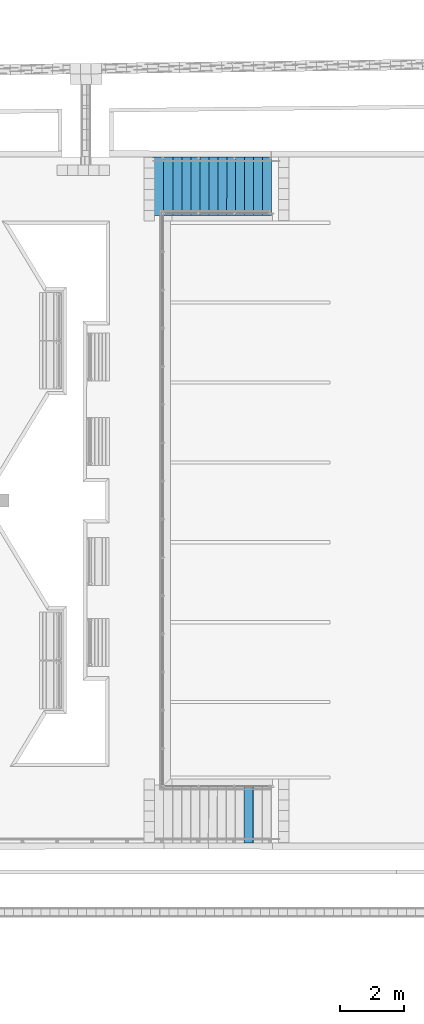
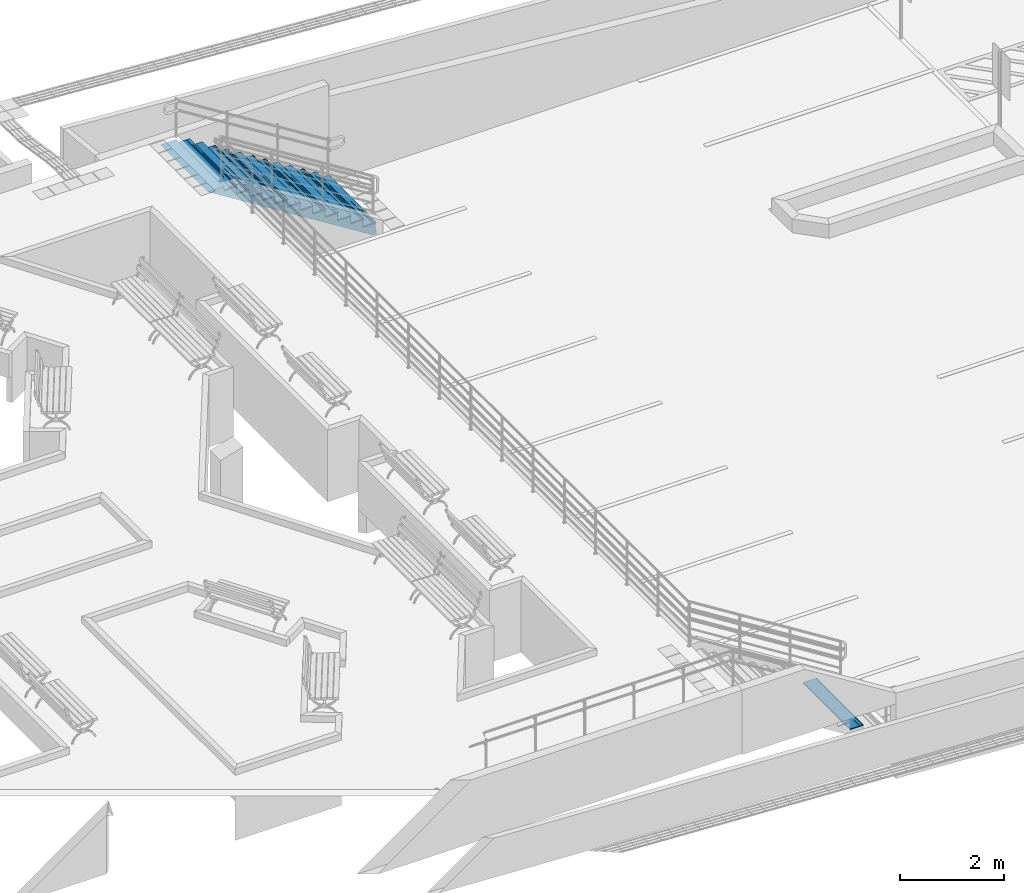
# One storey, part 25 of 237: 14 members, 2 elements without a shape of their own.
"""IFC2X3 building model written with IfcOpenShell, lengths in millimetres."""

from ifc_helpers import new_model, entity, si_unit, converted_unit, derived_unit, money_unit, direction, frame, origin_with_axes, place, context, subcontext, project, spatial, faceted_brep, material, type_object, element, aggregate, save


model = new_model("IFC2X3")

# Units and contexts
model_context = context("Model", 3, precision=0.01, world=origin_with_axes(), true_north=direction((0.0, 1.0)))
body_context = subcontext(model_context, "Body", "Model", "MODEL_VIEW")
ifc_project = project(units=[si_unit("LENGTHUNIT", "METRE", prefix="MILLI"), si_unit("AREAUNIT", "SQUARE_METRE"), si_unit("VOLUMEUNIT", "CUBIC_METRE"), converted_unit("PLANEANGLEUNIT", "DEGREE", entity("IfcPlaneAngleMeasure", 0.0174532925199), si_unit("PLANEANGLEUNIT", "RADIAN"), dimensions=[0, 0, 0, 0, 0, 0, 0]), money_unit("USD"), converted_unit("TIMEUNIT", "Year", entity("IfcTimeMeasure", 31556926.0), si_unit("TIMEUNIT", "SECOND"), dimensions=[0, 0, 1, 0, 0, 0, 0]), si_unit("MASSUNIT", "GRAM", prefix="KILO"), si_unit("THERMODYNAMICTEMPERATUREUNIT", "DEGREE_CELSIUS"), si_unit("LUMINOUSINTENSITYUNIT", "LUMEN"), si_unit("ENERGYUNIT", "JOULE", prefix="MEGA"), derived_unit("THERMALCONDUCTANCEUNIT", [(si_unit("POWERUNIT", "WATT"), 1), (si_unit("LENGTHUNIT", "METRE"), -1), (si_unit("THERMODYNAMICTEMPERATUREUNIT", "KELVIN"), -1)]), derived_unit("SPECIFICHEATCAPACITYUNIT", [(si_unit("ENERGYUNIT", "JOULE"), 1), (si_unit("MASSUNIT", "GRAM", prefix="KILO"), -1), (si_unit("THERMODYNAMICTEMPERATUREUNIT", "KELVIN"), -1)]), derived_unit("MASSDENSITYUNIT", [(si_unit("MASSUNIT", "GRAM", prefix="KILO"), 1), (si_unit("VOLUMEUNIT", "CUBIC_METRE"), -1)])], contexts=[model_context])

# Site, building, storey
site_placement = place(None, origin_with_axes())
site = spatial("IfcSite", under=ifc_project, at=site_placement, Name="Local", CompositionType="ELEMENT")
building_placement = place(site_placement, origin_with_axes())
building = spatial("IfcBuilding", under=site, at=building_placement, Name="Construção", CompositionType="ELEMENT")
storey_placement = place(building_placement, origin_with_axes())
storey = spatial("IfcBuildingStorey", under=building, at=storey_placement, Name="Pavimento Térreo", CompositionType="ELEMENT", Elevation=0.0)

# Stair, members
stair_1_placement = place(storey_placement, frame((103626.410197, 34446.6872117, -7274.60754302), z_axis=(0.0, 0.0, 1.0), x_axis=(1.0, 0.0, 0.0)))
stair_1 = element("IfcStair", 1, at=stair_1_placement, inside=storey, Name="Escada - 012", ShapeType="NOTDEFINED")
ifc_material_1 = material(Name="Concreto - Estrutural")
member_type = type_object("IfcMemberType", Name="IfcMember", PredefinedType="NOTDEFINED")
member_1_placement = place(stair_1_placement, origin_with_axes())
member_1 = element("IfcMember", 2, at=member_1_placement, type_object=member_type, material=ifc_material_1, Name="Lance - 014", context=body_context, shape_type="Brep", body=[
    faceted_brep([(-3267.74400748, -1813.32779161, 1893.76017655), (-3266.66339662, 6.67188759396, 1893.76017655), (-3173.33142686, 6.61647245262, 1835.29885576), (-3174.41203772, -1813.38320675, 1835.29885576), (-3359.99536638, 6.72730273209, 1952.22154099), (-3361.07597724, -1813.27237363, 1952.22154099), (-3724.71697623, -1813.05646716, 2180.0), (-3723.63636538, 6.94321178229, 2180.0), (-3359.99536638, 6.72730272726, 2079.61538462), (-3094.99945446, 6.56996343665, 2079.61538462), (-3094.99945446, 6.56996343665, 1904.23076923), (-2814.99950381, 6.40371561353, 1904.23076923), (-2814.99950381, 6.40371561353, 1728.84615385), (-2534.99955317, 6.23746758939, 1728.84615385), (-2534.99955317, 6.23746758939, 1553.46153846), (-2254.99960252, 6.07121956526, 1553.46153846), (-2254.99960252, 6.07121956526, 1378.07692308), (-1974.99965188, 5.90497154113, 1378.07692308), (-1974.99965188, 5.90497154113, 1202.69230769), (-1694.99970123, 5.73872482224, 1202.69230769), (-1694.99970123, 5.73872482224, 1027.30769231), (-1414.99975058, 5.57247679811, 1027.30769231), (-1414.99975058, 5.57247679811, 851.923076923), (-1134.99979994, 5.40622877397, 851.923076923), (-1134.99979994, 5.40622877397, 676.538461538), (-854.999849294, 5.23998074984, 676.538461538), (-854.999849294, 5.23998074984, 501.153846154), (-574.999898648, 5.07373272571, 501.153846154), (-574.999898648, 5.07373272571, 325.769230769), (-294.999948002, 4.90748470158, 325.769230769), (-294.999948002, 4.90748470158, 150.384615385), (-14.9999973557, 4.74123798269, 150.384615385), (-14.9999973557, 4.74123798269, -25.0), (0.0, 4.73233124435, -25.0), (0.0, 4.73233124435, -100.0), (-83.6453143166, 4.7819950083, -100.0), (-93.3333168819, 4.78774718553, -93.9316896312), (-186.666633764, 4.84316312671, -35.4701511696), (-279.999950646, 4.89857906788, 22.9913872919), (-373.333267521, 4.95400690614, 81.4529257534), (-466.666584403, 5.00942284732, 139.914464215), (-559.999901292, 5.06482689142, 198.376002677), (-653.333218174, 5.1202428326, 256.837541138), (-746.666535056, 5.17565877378, 315.2990796), (-839.999851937, 5.23107471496, 373.760618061), (-933.333168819, 5.28649065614, 432.222156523), (-1026.6664857, 5.34190659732, 490.683694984), (-1119.99980258, 5.39732253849, 549.145233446), (-1213.33311947, 5.45273847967, 607.606771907), (-1306.66643635, 5.50815442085, 666.068310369), (-1399.99975323, 5.56357036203, 724.52984883), (-1493.33307011, 5.61898831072, 782.991387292), (-1586.66638699, 5.6744042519, 841.452925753), (-1679.99970387, 5.72982019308, 899.914464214), (-1773.33302075, 5.7852400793, 958.376002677), (-1866.66633764, 5.84065602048, 1016.83754114), (-1959.99965452, 5.89607196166, 1075.29907962), (-2053.3329714, 5.95149184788, 1133.76061812), (-2146.66628828, 6.00690778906, 1192.22215661), (-2239.99960517, 6.06231383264, 1250.68369506), (-2333.33292205, 6.11772977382, 1309.14523278), (-2426.66623893, 6.173145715, 1367.60676952), (-2519.99955581, 6.22856165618, 1426.06830223), (-2613.33287269, 6.28397759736, 1484.52982371), (-2706.66618958, 6.33939353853, 1542.99134113), (-2799.99950646, 6.39480947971, 1601.45285066), (-2893.33282334, 6.45022542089, 1659.91442394), (-2986.66614022, 6.50564136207, 1718.37598555), (-3079.9994571, 6.56105730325, 1776.83761949), (-3374.99536374, 6.73620886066, 2180.0), (-3374.99536374, 6.73620886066, 2079.61538462), (-3081.08006796, -1813.43862189, 1776.83761949), (-2987.74675108, -1813.49403784, 1718.37598555), (-2894.41343419, -1813.54945378, 1659.91442394), (-2801.08011731, -1813.60486972, 1601.45285066), (-2707.74680043, -1813.66028566, 1542.99134113), (-2614.41348355, -1813.7157016, 1484.52982371), (-2521.08016667, -1813.77111754, 1426.06830223), (-2427.74684978, -1813.82653348, 1367.60676952), (-2334.4135329, -1813.88194942, 1309.14523278), (-2241.08021602, -1813.93736537, 1250.68369506), (-2147.74689914, -1813.99278131, 1192.22215661), (-2054.41358226, -1814.04819725, 1133.76061812), (-1961.08026537, -1814.10361319, 1075.29907962), (-1867.74694849, -1814.15902913, 1016.83754114), (-1774.41363161, -1814.21444507, 958.376002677), (-1681.08031473, -1814.26986101, 899.914464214), (-1587.74699785, -1814.32527695, 841.452925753), (-1494.41368096, -1814.38069289, 782.991387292), (-1401.08036408, -1814.43610884, 724.52984883), (-1307.7470472, -1814.49152478, 666.068310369), (-1214.41373032, -1814.54694072, 607.606771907), (-1121.08041344, -1814.60235666, 549.145233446), (-1027.74709655, -1814.6577726, 490.683694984), (-934.413779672, -1814.71318854, 432.222156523), (-841.08046279, -1814.76860448, 373.760618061), (-747.747145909, -1814.82402042, 315.2990796), (-654.413829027, -1814.87943637, 256.837541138), (-561.080512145, -1814.93485231, 198.376002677), (-467.747195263, -1814.99026825, 139.914464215), (-374.413878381, -1815.04568419, 81.4529257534), (-281.080561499, -1815.10110013, 22.9913872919), (-187.747244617, -1815.15651607, -35.4701511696), (-94.4139277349, -1815.21193201, -93.9316896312), (-84.7259251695, -1815.21768419, -100.0), (-1.08061085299, -1815.26734795, -100.0), (-1.08061085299, -1815.26734795, -25.0), (-16.0806082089, -1815.25844158, -25.0), (-16.0806082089, -1815.25844158, 150.384615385), (-296.080558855, -1815.09219376, 150.384615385), (-296.080558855, -1815.09219376, 325.769230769), (-576.080509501, -1814.92594593, 325.769230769), (-576.080509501, -1814.92594593, 501.153846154), (-856.080460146, -1814.75969811, 501.153846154), (-856.080460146, -1814.75969811, 676.538461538), (-1136.08041079, -1814.59345029, 676.538461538), (-1136.08041079, -1814.59345029, 851.923076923), (-1416.08036144, -1814.42720246, 851.923076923), (-1416.08036144, -1814.42720246, 1027.30769231), (-1696.08031208, -1814.26095464, 1027.30769231), (-1696.08031208, -1814.26095464, 1202.69230769), (-1976.08026273, -1814.09470682, 1202.69230769), (-1976.08026273, -1814.09470682, 1378.07692308), (-2256.08021338, -1813.92845899, 1378.07692308), (-2256.08021338, -1813.92845899, 1553.46153846), (-2536.08016402, -1813.76221117, 1553.46153846), (-2536.08016402, -1813.76221117, 1728.84615385), (-2816.08011467, -1813.59596334, 1728.84615385), (-2816.08011467, -1813.59596334, 1904.23076923), (-3096.08006531, -1813.42971576, 1904.23076923), (-3096.08006531, -1813.42971576, 2079.61538462), (-3361.07597724, -1813.27237647, 2079.61538462), (-3376.07597459, -1813.26347034, 2079.61538462), (-3376.07597459, -1813.26347034, 2180.0)], [[[0, 1, 2, 3]], [[4, 1, 0, 5, 6, 7]], [[8, 9, 10, 11, 12, 13, 14, 15, 16, 17, 18, 19, 20, 21, 22, 23, 24, 25, 26, 27, 28, 29, 30, 31, 32, 33, 34, 35, 36, 37, 38, 39, 40, 41, 42, 43, 44, 45, 46, 47, 48, 49, 50, 51, 52, 53, 54, 55, 56, 57, 58, 59, 60, 61, 62, 63, 64, 65, 66, 67, 68, 2, 1, 4, 7, 69, 70]], [[3, 2, 68, 71]], [[5, 0, 3, 71, 72, 73, 74, 75, 76, 77, 78, 79, 80, 81, 82, 83, 84, 85, 86, 87, 88, 89, 90, 91, 92, 93, 94, 95, 96, 97, 98, 99, 100, 101, 102, 103, 104, 105, 106, 107, 108, 109, 110, 111, 112, 113, 114, 115, 116, 117, 118, 119, 120, 121, 122, 123, 124, 125, 126, 127, 128, 129, 130, 131, 132, 133, 6]], [[6, 133, 69, 7]], [[131, 130, 9, 8, 70, 132]], [[130, 129, 10, 9]], [[129, 128, 11, 10]], [[128, 127, 12, 11]], [[127, 126, 13, 12]], [[126, 125, 14, 13]], [[125, 124, 15, 14]], [[124, 123, 16, 15]], [[123, 122, 17, 16]], [[122, 121, 18, 17]], [[121, 120, 19, 18]], [[120, 119, 20, 19]], [[119, 118, 21, 20]], [[118, 117, 22, 21]], [[117, 116, 23, 22]], [[116, 115, 24, 23]], [[115, 114, 25, 24]], [[114, 113, 26, 25]], [[113, 112, 27, 26]], [[112, 111, 28, 27]], [[111, 110, 29, 28]], [[110, 109, 30, 29]], [[109, 108, 31, 30]], [[108, 107, 32, 31]], [[32, 107, 106, 33]], [[105, 34, 33, 106]], [[35, 34, 105, 104]], [[35, 104, 103, 36]], [[102, 37, 36, 103]], [[101, 38, 37, 102]], [[100, 39, 38, 101]], [[99, 40, 39, 100]], [[98, 41, 40, 99]], [[97, 42, 41, 98]], [[96, 43, 42, 97]], [[95, 44, 43, 96]], [[94, 45, 44, 95]], [[93, 46, 45, 94]], [[92, 47, 46, 93]], [[91, 48, 47, 92]], [[90, 49, 48, 91]], [[89, 50, 49, 90]], [[88, 51, 50, 89]], [[87, 52, 51, 88]], [[86, 53, 52, 87]], [[85, 54, 53, 86]], [[84, 55, 54, 85]], [[83, 56, 55, 84]], [[82, 57, 56, 83]], [[81, 58, 57, 82]], [[80, 59, 58, 81]], [[79, 60, 59, 80]], [[78, 61, 60, 79]], [[77, 62, 61, 78]], [[76, 63, 62, 77]], [[75, 64, 63, 76]], [[74, 65, 64, 75]], [[73, 66, 65, 74]], [[72, 67, 66, 73]], [[71, 68, 67, 72]], [[132, 70, 69, 133]]]),
])
ifc_material_2 = material(Name="Concreto Armado - Pré-fabricado")
member_2_placement = place(stair_1_placement, frame((-0.540305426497, -905.267508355, 175.384615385), z_axis=(0.0, 0.0, 1.0), x_axis=(0.000593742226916, 0.999999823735, 0.0)))
member_2 = element("IfcMember", 3, at=member_2_placement, type_object=member_type, material=ifc_material_2, Name="Piso Esc. - 102", context=body_context, shape_type="Brep", body=[
    faceted_brep([(-910.0, 95.0, 0.0), (910.0, 95.0, 0.0), (910.0, 294.999986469, 0.0), (-910.0, 295.000000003, 0.0), (910.0, 95.0, -5.0), (-910.0, 95.0, -5.0), (910.0, 80.0, -5.0), (910.0, 80.0, 0.0), (910.0, 62.5, 0.0), (910.0, 62.5, -5.0), (910.0, 47.5, -5.0), (910.0, 47.5, 0.0), (910.0, 30.0, 0.0), (910.0, 30.0, -5.0), (910.0, 15.0, -5.0), (910.0, 15.0, 0.0), (910.0, 0.0, 0.0), (910.0, 0.0, -25.0), (910.0, 294.999986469, -25.0), (-910.0, 295.000000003, -25.0), (-910.0, 0.0, -25.0), (-910.0, 0.0, 0.0), (-910.0, 15.0, 0.0), (-910.0, 15.0, -5.0), (-910.0, 30.0, -5.0), (-910.0, 30.0, 0.0), (-910.0, 47.5, 0.0), (-910.0, 47.5, -5.0), (-910.0, 62.5, -5.0), (-910.0, 62.5, 0.0), (-910.0, 80.0, 0.0), (-910.0, 80.0, -5.0)], [[[0, 1, 2, 3]], [[4, 1, 0, 5]], [[6, 7, 8, 9, 10, 11, 12, 13, 14, 15, 16, 17, 18, 2, 1, 4]], [[2, 18, 19, 3]], [[5, 0, 3, 19, 20, 21, 22, 23, 24, 25, 26, 27, 28, 29, 30, 31]], [[6, 4, 5, 31]], [[30, 7, 6, 31]], [[7, 30, 29, 8]], [[8, 29, 28, 9]], [[9, 28, 27, 10]], [[11, 10, 27, 26]], [[26, 25, 12, 11]], [[25, 24, 13, 12]], [[24, 23, 14, 13]], [[14, 23, 22, 15]], [[21, 16, 15, 22]], [[21, 20, 17, 16]], [[17, 20, 19, 18]]]),
])
member_3_placement = place(stair_1_placement, frame((-280.540256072, -905.101260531, 350.769230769), z_axis=(0.0, 0.0, 1.0), x_axis=(0.000593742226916, 0.999999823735, 0.0)))
member_3 = element("IfcMember", 4, at=member_3_placement, type_object=member_type, material=ifc_material_2, Name="Piso Esc. - 103", context=body_context, shape_type="Brep", body=[
    faceted_brep([(-910.0, 95.0, 0.0), (910.0, 95.0, 0.0), (910.0, 294.999986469, 0.0), (-910.0, 295.000000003, 0.0), (910.0, 95.0, -5.0), (-910.0, 95.0, -5.0), (910.0, 80.0, -5.0), (910.0, 80.0, 0.0), (910.0, 62.5, 0.0), (910.0, 62.5, -5.0), (910.0, 47.5, -5.0), (910.0, 47.5, 0.0), (910.0, 30.0, 0.0), (910.0, 30.0, -5.0), (910.0, 15.0, -5.0), (910.0, 15.0, 0.0), (910.0, 0.0, 0.0), (910.0, 0.0, -25.0), (910.0, 294.999986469, -25.0), (-910.0, 295.000000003, -25.0), (-910.0, 0.0, -25.0), (-910.0, 0.0, 0.0), (-910.0, 15.0, 0.0), (-910.0, 15.0, -5.0), (-910.0, 30.0, -5.0), (-910.0, 30.0, 0.0), (-910.0, 47.5, 0.0), (-910.0, 47.5, -5.0), (-910.0, 62.5, -5.0), (-910.0, 62.5, 0.0), (-910.0, 80.0, 0.0), (-910.0, 80.0, -5.0)], [[[0, 1, 2, 3]], [[4, 1, 0, 5]], [[6, 7, 8, 9, 10, 11, 12, 13, 14, 15, 16, 17, 18, 2, 1, 4]], [[2, 18, 19, 3]], [[5, 0, 3, 19, 20, 21, 22, 23, 24, 25, 26, 27, 28, 29, 30, 31]], [[6, 4, 5, 31]], [[30, 7, 6, 31]], [[7, 30, 29, 8]], [[8, 29, 28, 9]], [[9, 28, 27, 10]], [[11, 10, 27, 26]], [[26, 25, 12, 11]], [[25, 24, 13, 12]], [[24, 23, 14, 13]], [[14, 23, 22, 15]], [[21, 16, 15, 22]], [[21, 20, 17, 16]], [[17, 20, 19, 18]]]),
])
member_4_placement = place(stair_1_placement, frame((-560.540206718, -904.935012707, 526.153846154), z_axis=(0.0, 0.0, 1.0), x_axis=(0.000593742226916, 0.999999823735, 0.0)))
member_4 = element("IfcMember", 5, at=member_4_placement, type_object=member_type, material=ifc_material_2, Name="Piso Esc. - 104", context=body_context, shape_type="Brep", body=[
    faceted_brep([(-910.0, 95.0, 0.0), (910.0, 95.0, 0.0), (910.0, 294.999986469, 0.0), (-910.0, 295.000000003, 0.0), (910.0, 95.0, -5.0), (-910.0, 95.0, -5.0), (910.0, 80.0, -5.0), (910.0, 80.0, 0.0), (910.0, 62.5, 0.0), (910.0, 62.5, -5.0), (910.0, 47.5, -5.0), (910.0, 47.5, 0.0), (910.0, 30.0, 0.0), (910.0, 30.0, -5.0), (910.0, 15.0, -5.0), (910.0, 15.0, 0.0), (910.0, 0.0, 0.0), (910.0, 0.0, -25.0), (910.0, 294.999986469, -25.0), (-910.0, 295.000000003, -25.0), (-910.0, 0.0, -25.0), (-910.0, 0.0, 0.0), (-910.0, 15.0, 0.0), (-910.0, 15.0, -5.0), (-910.0, 30.0, -5.0), (-910.0, 30.0, 0.0), (-910.0, 47.5, 0.0), (-910.0, 47.5, -5.0), (-910.0, 62.5, -5.0), (-910.0, 62.5, 0.0), (-910.0, 80.0, 0.0), (-910.0, 80.0, -5.0)], [[[0, 1, 2, 3]], [[4, 1, 0, 5]], [[6, 7, 8, 9, 10, 11, 12, 13, 14, 15, 16, 17, 18, 2, 1, 4]], [[2, 18, 19, 3]], [[5, 0, 3, 19, 20, 21, 22, 23, 24, 25, 26, 27, 28, 29, 30, 31]], [[6, 4, 5, 31]], [[30, 7, 6, 31]], [[7, 30, 29, 8]], [[8, 29, 28, 9]], [[9, 28, 27, 10]], [[11, 10, 27, 26]], [[26, 25, 12, 11]], [[25, 24, 13, 12]], [[24, 23, 14, 13]], [[14, 23, 22, 15]], [[21, 16, 15, 22]], [[21, 20, 17, 16]], [[17, 20, 19, 18]]]),
])
member_5_placement = place(stair_1_placement, frame((-840.540157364, -904.768764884, 701.538461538), z_axis=(0.0, 0.0, 1.0), x_axis=(0.000593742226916, 0.999999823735, 0.0)))
member_5 = element("IfcMember", 6, at=member_5_placement, type_object=member_type, material=ifc_material_2, Name="Piso Esc. - 105", context=body_context, shape_type="Brep", body=[
    faceted_brep([(-910.0, 95.0, 0.0), (910.0, 95.0, 0.0), (910.0, 294.999986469, 0.0), (-910.0, 295.000000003, 0.0), (910.0, 95.0, -5.0), (-910.0, 95.0, -5.0), (910.0, 80.0, -5.0), (910.0, 80.0, 0.0), (910.0, 62.5, 0.0), (910.0, 62.5, -5.0), (910.0, 47.5, -5.0), (910.0, 47.5, 0.0), (910.0, 30.0, 0.0), (910.0, 30.0, -5.0), (910.0, 15.0, -5.0), (910.0, 15.0, 0.0), (910.0, 0.0, 0.0), (910.0, 0.0, -25.0), (910.0, 294.999986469, -25.0), (-910.0, 295.000000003, -25.0), (-910.0, 0.0, -25.0), (-910.0, 0.0, 0.0), (-910.0, 15.0, 0.0), (-910.0, 15.0, -5.0), (-910.0, 30.0, -5.0), (-910.0, 30.0, 0.0), (-910.0, 47.5, 0.0), (-910.0, 47.5, -5.0), (-910.0, 62.5, -5.0), (-910.0, 62.5, 0.0), (-910.0, 80.0, 0.0), (-910.0, 80.0, -5.0)], [[[0, 1, 2, 3]], [[4, 1, 0, 5]], [[6, 7, 8, 9, 10, 11, 12, 13, 14, 15, 16, 17, 18, 2, 1, 4]], [[2, 18, 19, 3]], [[5, 0, 3, 19, 20, 21, 22, 23, 24, 25, 26, 27, 28, 29, 30, 31]], [[6, 4, 5, 31]], [[30, 7, 6, 31]], [[7, 30, 29, 8]], [[8, 29, 28, 9]], [[9, 28, 27, 10]], [[11, 10, 27, 26]], [[26, 25, 12, 11]], [[25, 24, 13, 12]], [[24, 23, 14, 13]], [[14, 23, 22, 15]], [[21, 16, 15, 22]], [[21, 20, 17, 16]], [[17, 20, 19, 18]]]),
])
member_6_placement = place(stair_1_placement, frame((-1120.54010801, -904.60251706, 876.923076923), z_axis=(0.0, 0.0, 1.0), x_axis=(0.000593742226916, 0.999999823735, 0.0)))
member_6 = element("IfcMember", 7, at=member_6_placement, type_object=member_type, material=ifc_material_2, Name="Piso Esc. - 106", context=body_context, shape_type="Brep", body=[
    faceted_brep([(-910.0, 95.0, 0.0), (910.0, 95.0, 0.0), (910.0, 294.999986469, 0.0), (-910.0, 295.000000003, 0.0), (910.0, 95.0, -5.0), (-910.0, 95.0, -5.0), (910.0, 80.0, -5.0), (910.0, 80.0, 0.0), (910.0, 62.5, 0.0), (910.0, 62.5, -5.0), (910.0, 47.5, -5.0), (910.0, 47.5, 0.0), (910.0, 30.0, 0.0), (910.0, 30.0, -5.0), (910.0, 15.0, -5.0), (910.0, 15.0, 0.0), (910.0, 0.0, 0.0), (910.0, 0.0, -25.0), (910.0, 294.999986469, -25.0), (-910.0, 295.000000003, -25.0), (-910.0, 0.0, -25.0), (-910.0, 0.0, 0.0), (-910.0, 15.0, 0.0), (-910.0, 15.0, -5.0), (-910.0, 30.0, -5.0), (-910.0, 30.0, 0.0), (-910.0, 47.5, 0.0), (-910.0, 47.5, -5.0), (-910.0, 62.5, -5.0), (-910.0, 62.5, 0.0), (-910.0, 80.0, 0.0), (-910.0, 80.0, -5.0)], [[[0, 1, 2, 3]], [[4, 1, 0, 5]], [[6, 7, 8, 9, 10, 11, 12, 13, 14, 15, 16, 17, 18, 2, 1, 4]], [[2, 18, 19, 3]], [[5, 0, 3, 19, 20, 21, 22, 23, 24, 25, 26, 27, 28, 29, 30, 31]], [[6, 4, 5, 31]], [[30, 7, 6, 31]], [[7, 30, 29, 8]], [[8, 29, 28, 9]], [[9, 28, 27, 10]], [[11, 10, 27, 26]], [[26, 25, 12, 11]], [[25, 24, 13, 12]], [[24, 23, 14, 13]], [[14, 23, 22, 15]], [[21, 16, 15, 22]], [[21, 20, 17, 16]], [[17, 20, 19, 18]]]),
])
member_7_placement = place(stair_1_placement, frame((-1400.54005866, -904.436269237, 1052.30769231), z_axis=(0.0, 0.0, 1.0), x_axis=(0.000593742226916, 0.999999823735, 0.0)))
member_7 = element("IfcMember", 8, at=member_7_placement, type_object=member_type, material=ifc_material_2, Name="Piso Esc. - 107", context=body_context, shape_type="Brep", body=[
    faceted_brep([(-910.0, 95.0, 0.0), (910.0, 95.0, 0.0), (910.0, 294.999986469, 0.0), (-910.0, 295.000000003, 0.0), (910.0, 95.0, -5.0), (-910.0, 95.0, -5.0), (910.0, 80.0, -5.0), (910.0, 80.0, 0.0), (910.0, 62.5, 0.0), (910.0, 62.5, -5.0), (910.0, 47.5, -5.0), (910.0, 47.5, 0.0), (910.0, 30.0, 0.0), (910.0, 30.0, -5.0), (910.0, 15.0, -5.0), (910.0, 15.0, 0.0), (910.0, 0.0, 0.0), (910.0, 0.0, -25.0), (910.0, 294.999986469, -25.0), (-910.0, 295.000000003, -25.0), (-910.0, 0.0, -25.0), (-910.0, 0.0, 0.0), (-910.0, 15.0, 0.0), (-910.0, 15.0, -5.0), (-910.0, 30.0, -5.0), (-910.0, 30.0, 0.0), (-910.0, 47.5, 0.0), (-910.0, 47.5, -5.0), (-910.0, 62.5, -5.0), (-910.0, 62.5, 0.0), (-910.0, 80.0, 0.0), (-910.0, 80.0, -5.0)], [[[0, 1, 2, 3]], [[4, 1, 0, 5]], [[6, 7, 8, 9, 10, 11, 12, 13, 14, 15, 16, 17, 18, 2, 1, 4]], [[2, 18, 19, 3]], [[5, 0, 3, 19, 20, 21, 22, 23, 24, 25, 26, 27, 28, 29, 30, 31]], [[6, 4, 5, 31]], [[30, 7, 6, 31]], [[7, 30, 29, 8]], [[8, 29, 28, 9]], [[9, 28, 27, 10]], [[11, 10, 27, 26]], [[26, 25, 12, 11]], [[25, 24, 13, 12]], [[24, 23, 14, 13]], [[14, 23, 22, 15]], [[21, 16, 15, 22]], [[21, 20, 17, 16]], [[17, 20, 19, 18]]]),
])
member_8_placement = place(stair_1_placement, frame((-1680.5400093, -904.270021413, 1227.69230769), z_axis=(0.0, 0.0, 1.0), x_axis=(0.000593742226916, 0.999999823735, 0.0)))
member_8 = element("IfcMember", 9, at=member_8_placement, type_object=member_type, material=ifc_material_2, Name="Piso Esc. - 108", context=body_context, shape_type="Brep", body=[
    faceted_brep([(-910.0, 95.0, 0.0), (910.0, 95.0, 0.0), (910.0, 294.999986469, 0.0), (-910.0, 295.000000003, 0.0), (910.0, 95.0, -5.0), (-910.0, 95.0, -5.0), (910.0, 80.0, -5.0), (910.0, 80.0, 0.0), (910.0, 62.5, 0.0), (910.0, 62.5, -5.0), (910.0, 47.5, -5.0), (910.0, 47.5, 0.0), (910.0, 30.0, 0.0), (910.0, 30.0, -5.0), (910.0, 15.0, -5.0), (910.0, 15.0, 0.0), (910.0, 0.0, 0.0), (910.0, 0.0, -25.0), (910.0, 294.999986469, -25.0), (-910.0, 295.000000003, -25.0), (-910.0, 0.0, -25.0), (-910.0, 0.0, 0.0), (-910.0, 15.0, 0.0), (-910.0, 15.0, -5.0), (-910.0, 30.0, -5.0), (-910.0, 30.0, 0.0), (-910.0, 47.5, 0.0), (-910.0, 47.5, -5.0), (-910.0, 62.5, -5.0), (-910.0, 62.5, 0.0), (-910.0, 80.0, 0.0), (-910.0, 80.0, -5.0)], [[[0, 1, 2, 3]], [[4, 1, 0, 5]], [[6, 7, 8, 9, 10, 11, 12, 13, 14, 15, 16, 17, 18, 2, 1, 4]], [[2, 18, 19, 3]], [[5, 0, 3, 19, 20, 21, 22, 23, 24, 25, 26, 27, 28, 29, 30, 31]], [[6, 4, 5, 31]], [[30, 7, 6, 31]], [[7, 30, 29, 8]], [[8, 29, 28, 9]], [[9, 28, 27, 10]], [[11, 10, 27, 26]], [[26, 25, 12, 11]], [[25, 24, 13, 12]], [[24, 23, 14, 13]], [[14, 23, 22, 15]], [[21, 16, 15, 22]], [[21, 20, 17, 16]], [[17, 20, 19, 18]]]),
])
member_9_placement = place(stair_1_placement, frame((-1960.53995995, -904.10377359, 1403.07692308), z_axis=(0.0, 0.0, 1.0), x_axis=(0.000593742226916, 0.999999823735, 0.0)))
member_9 = element("IfcMember", 10, at=member_9_placement, type_object=member_type, material=ifc_material_2, Name="Piso Esc. - 109", context=body_context, shape_type="Brep", body=[
    faceted_brep([(-910.0, 95.0, 0.0), (910.0, 95.0, 0.0), (910.0, 294.999986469, 0.0), (-910.0, 295.000000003, 0.0), (910.0, 95.0, -5.0), (-910.0, 95.0, -5.0), (910.0, 80.0, -5.0), (910.0, 80.0, 0.0), (910.0, 62.5, 0.0), (910.0, 62.5, -5.0), (910.0, 47.5, -5.0), (910.0, 47.5, 0.0), (910.0, 30.0, 0.0), (910.0, 30.0, -5.0), (910.0, 15.0, -5.0), (910.0, 15.0, 0.0), (910.0, 0.0, 0.0), (910.0, 0.0, -25.0), (910.0, 294.999986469, -25.0), (-910.0, 295.000000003, -25.0), (-910.0, 0.0, -25.0), (-910.0, 0.0, 0.0), (-910.0, 15.0, 0.0), (-910.0, 15.0, -5.0), (-910.0, 30.0, -5.0), (-910.0, 30.0, 0.0), (-910.0, 47.5, 0.0), (-910.0, 47.5, -5.0), (-910.0, 62.5, -5.0), (-910.0, 62.5, 0.0), (-910.0, 80.0, 0.0), (-910.0, 80.0, -5.0)], [[[0, 1, 2, 3]], [[4, 1, 0, 5]], [[6, 7, 8, 9, 10, 11, 12, 13, 14, 15, 16, 17, 18, 2, 1, 4]], [[2, 18, 19, 3]], [[5, 0, 3, 19, 20, 21, 22, 23, 24, 25, 26, 27, 28, 29, 30, 31]], [[6, 4, 5, 31]], [[30, 7, 6, 31]], [[7, 30, 29, 8]], [[8, 29, 28, 9]], [[9, 28, 27, 10]], [[11, 10, 27, 26]], [[26, 25, 12, 11]], [[25, 24, 13, 12]], [[24, 23, 14, 13]], [[14, 23, 22, 15]], [[21, 16, 15, 22]], [[21, 20, 17, 16]], [[17, 20, 19, 18]]]),
])
member_10_placement = place(stair_1_placement, frame((-2240.53991059, -903.937525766, 1578.46153846), z_axis=(0.0, 0.0, 1.0), x_axis=(0.000593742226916, 0.999999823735, 0.0)))
member_10 = element("IfcMember", 11, at=member_10_placement, type_object=member_type, material=ifc_material_2, Name="Piso Esc. - 110", context=body_context, shape_type="Brep", body=[
    faceted_brep([(-910.0, 95.0, 0.0), (910.0, 95.0, 0.0), (910.0, 294.999986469, 0.0), (-910.0, 295.000000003, 0.0), (910.0, 95.0, -5.0), (-910.0, 95.0, -5.0), (910.0, 80.0, -5.0), (910.0, 80.0, 0.0), (910.0, 62.5, 0.0), (910.0, 62.5, -5.0), (910.0, 47.5, -5.0), (910.0, 47.5, 0.0), (910.0, 30.0, 0.0), (910.0, 30.0, -5.0), (910.0, 15.0, -5.0), (910.0, 15.0, 0.0), (910.0, 0.0, 0.0), (910.0, 0.0, -25.0), (910.0, 294.999986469, -25.0), (-910.0, 295.000000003, -25.0), (-910.0, 0.0, -25.0), (-910.0, 0.0, 0.0), (-910.0, 15.0, 0.0), (-910.0, 15.0, -5.0), (-910.0, 30.0, -5.0), (-910.0, 30.0, 0.0), (-910.0, 47.5, 0.0), (-910.0, 47.5, -5.0), (-910.0, 62.5, -5.0), (-910.0, 62.5, 0.0), (-910.0, 80.0, 0.0), (-910.0, 80.0, -5.0)], [[[0, 1, 2, 3]], [[4, 1, 0, 5]], [[6, 7, 8, 9, 10, 11, 12, 13, 14, 15, 16, 17, 18, 2, 1, 4]], [[2, 18, 19, 3]], [[5, 0, 3, 19, 20, 21, 22, 23, 24, 25, 26, 27, 28, 29, 30, 31]], [[6, 4, 5, 31]], [[30, 7, 6, 31]], [[7, 30, 29, 8]], [[8, 29, 28, 9]], [[9, 28, 27, 10]], [[11, 10, 27, 26]], [[26, 25, 12, 11]], [[25, 24, 13, 12]], [[24, 23, 14, 13]], [[14, 23, 22, 15]], [[21, 16, 15, 22]], [[21, 20, 17, 16]], [[17, 20, 19, 18]]]),
])
member_11_placement = place(stair_1_placement, frame((-2520.53986124, -903.771277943, 1753.84615385), z_axis=(0.0, 0.0, 1.0), x_axis=(0.000593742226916, 0.999999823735, 0.0)))
member_11 = element("IfcMember", 12, at=member_11_placement, type_object=member_type, material=ifc_material_2, Name="Piso Esc. - 111", context=body_context, shape_type="Brep", body=[
    faceted_brep([(-910.0, 95.0, 0.0), (910.0, 95.0, 0.0), (910.0, 294.999986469, 0.0), (-910.0, 295.000000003, 0.0), (910.0, 95.0, -5.0), (-910.0, 95.0, -5.0), (910.0, 80.0, -5.0), (910.0, 80.0, 0.0), (910.0, 62.5, 0.0), (910.0, 62.5, -5.0), (910.0, 47.5, -5.0), (910.0, 47.5, 0.0), (910.0, 30.0, 0.0), (910.0, 30.0, -5.0), (910.0, 15.0, -5.0), (910.0, 15.0, 0.0), (910.0, 0.0, 0.0), (910.0, 0.0, -25.0), (910.0, 294.999986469, -25.0), (-910.0, 295.000000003, -25.0), (-910.0, 0.0, -25.0), (-910.0, 0.0, 0.0), (-910.0, 15.0, 0.0), (-910.0, 15.0, -5.0), (-910.0, 30.0, -5.0), (-910.0, 30.0, 0.0), (-910.0, 47.5, 0.0), (-910.0, 47.5, -5.0), (-910.0, 62.5, -5.0), (-910.0, 62.5, 0.0), (-910.0, 80.0, 0.0), (-910.0, 80.0, -5.0)], [[[0, 1, 2, 3]], [[4, 1, 0, 5]], [[6, 7, 8, 9, 10, 11, 12, 13, 14, 15, 16, 17, 18, 2, 1, 4]], [[2, 18, 19, 3]], [[5, 0, 3, 19, 20, 21, 22, 23, 24, 25, 26, 27, 28, 29, 30, 31]], [[6, 4, 5, 31]], [[30, 7, 6, 31]], [[7, 30, 29, 8]], [[8, 29, 28, 9]], [[9, 28, 27, 10]], [[11, 10, 27, 26]], [[26, 25, 12, 11]], [[25, 24, 13, 12]], [[24, 23, 14, 13]], [[14, 23, 22, 15]], [[21, 16, 15, 22]], [[21, 20, 17, 16]], [[17, 20, 19, 18]]]),
])
member_12_placement = place(stair_1_placement, frame((-2800.53981188, -903.605030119, 1929.23076923), z_axis=(0.0, 0.0, 1.0), x_axis=(0.000593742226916, 0.999999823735, 0.0)))
member_12 = element("IfcMember", 13, at=member_12_placement, type_object=member_type, material=ifc_material_2, Name="Piso Esc. - 112", context=body_context, shape_type="Brep", body=[
    faceted_brep([(-910.0, 95.0, 0.0), (910.0, 95.0, 0.0), (910.0, 294.999986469, 0.0), (-910.0, 295.000000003, 0.0), (910.0, 95.0, -5.0), (-910.0, 95.0, -5.0), (910.0, 80.0, -5.0), (910.0, 80.0, 0.0), (910.0, 62.5, 0.0), (910.0, 62.5, -5.0), (910.0, 47.5, -5.0), (910.0, 47.5, 0.0), (910.0, 30.0, 0.0), (910.0, 30.0, -5.0), (910.0, 15.0, -5.0), (910.0, 15.0, 0.0), (910.0, 0.0, 0.0), (910.0, 0.0, -25.0), (910.0, 294.999986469, -25.0), (-910.0, 295.000000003, -25.0), (-910.0, 0.0, -25.0), (-910.0, 0.0, 0.0), (-910.0, 15.0, 0.0), (-910.0, 15.0, -5.0), (-910.0, 30.0, -5.0), (-910.0, 30.0, 0.0), (-910.0, 47.5, 0.0), (-910.0, 47.5, -5.0), (-910.0, 62.5, -5.0), (-910.0, 62.5, 0.0), (-910.0, 80.0, 0.0), (-910.0, 80.0, -5.0)], [[[0, 1, 2, 3]], [[4, 1, 0, 5]], [[6, 7, 8, 9, 10, 11, 12, 13, 14, 15, 16, 17, 18, 2, 1, 4]], [[2, 18, 19, 3]], [[5, 0, 3, 19, 20, 21, 22, 23, 24, 25, 26, 27, 28, 29, 30, 31]], [[6, 4, 5, 31]], [[30, 7, 6, 31]], [[7, 30, 29, 8]], [[8, 29, 28, 9]], [[9, 28, 27, 10]], [[11, 10, 27, 26]], [[26, 25, 12, 11]], [[25, 24, 13, 12]], [[24, 23, 14, 13]], [[14, 23, 22, 15]], [[21, 16, 15, 22]], [[21, 20, 17, 16]], [[17, 20, 19, 18]]]),
])
member_13_placement = place(stair_1_placement, frame((-3080.53976253, -903.438782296, 2104.61538462), z_axis=(0.0, 0.0, 1.0), x_axis=(0.000593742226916, 0.999999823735, 0.0)))
member_13 = element("IfcMember", 14, at=member_13_placement, type_object=member_type, material=ifc_material_2, Name="Piso Esc. - 114", context=body_context, shape_type="Brep", body=[
    faceted_brep([(-910.0, 95.0, 0.0), (910.0, 95.0, 0.0), (910.0, 279.995958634, 0.0), (910.0, 294.995958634, 0.0), (-910.0, 294.995958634, 0.0), (-910.0, 279.995958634, 0.0), (910.0, 95.0, -5.0), (-910.0, 95.0, -5.0), (910.0, 80.0, -5.0), (910.0, 80.0, 0.0), (910.0, 62.5, 0.0), (910.0, 62.5, -5.0), (910.0, 47.5, -5.0), (910.0, 47.5, 0.0), (910.0, 30.0, 0.0), (910.0, 30.0, -5.0), (910.0, 15.0, -5.0), (910.0, 15.0, 0.0), (910.0, 0.0, 0.0), (910.0, 0.0, -25.0), (910.0, 279.995958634, -25.0), (910.0, 294.995958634, -25.0), (-910.0, 294.995958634, -25.0), (-910.0, 279.995958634, -25.0), (-910.0, 0.0, -25.0), (-910.0, 0.0, 0.0), (-910.0, 15.0, 0.0), (-910.0, 15.0, -5.0), (-910.0, 30.0, -5.0), (-910.0, 30.0, 0.0), (-910.0, 47.5, 0.0), (-910.0, 47.5, -5.0), (-910.0, 62.5, -5.0), (-910.0, 62.5, 0.0), (-910.0, 80.0, 0.0), (-910.0, 80.0, -5.0)], [[[0, 1, 2, 3, 4, 5]], [[6, 1, 0, 7]], [[8, 9, 10, 11, 12, 13, 14, 15, 16, 17, 18, 19, 20, 2, 1, 6]], [[2, 20, 21, 3]], [[3, 21, 22, 4]], [[4, 22, 23, 5]], [[7, 0, 5, 23, 24, 25, 26, 27, 28, 29, 30, 31, 32, 33, 34, 35]], [[8, 6, 7, 35]], [[34, 9, 8, 35]], [[9, 34, 33, 10]], [[10, 33, 32, 11]], [[11, 32, 31, 12]], [[13, 12, 31, 30]], [[30, 29, 14, 13]], [[29, 28, 15, 14]], [[28, 27, 16, 15]], [[16, 27, 26, 17]], [[25, 18, 17, 26]], [[25, 24, 19, 18]], [[21, 20, 19, 24, 23, 22]]]),
])
aggregate(stair_1, [member_1, member_2, member_3, member_4, member_5, member_6, member_7, member_8, member_9, member_10, member_11, member_12, member_13])

# Stair, member
stair_2_placement = place(storey_placement, frame((103623.862542, 14794.5079943, -7274.60754302), z_axis=(0.0, 0.0, 1.0), x_axis=(1.0, 0.0, 0.0)))
stair_2 = element("IfcStair", 15, at=stair_2_placement, inside=storey, Name="Escada - 012", ShapeType="NOTDEFINED")
member_14_placement = place(stair_2_placement, frame((-561.304094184, -899.187251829, 526.153846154), z_axis=(0.0, 0.0, 1.0), x_axis=(0.00144964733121, 0.999998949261, 0.0)))
member_14 = element("IfcMember", 16, at=member_14_placement, type_object=member_type, material=ifc_material_2, Name="Piso Esc. - 104", context=body_context, shape_type="Brep", body=[
    faceted_brep([(-900.644572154, 80.0, 0.0), (-900.644572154, 95.0, 0.0), (900.0, 95.0, 0.0), (900.0, 295.000011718, 0.0), (-900.984123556, 294.999999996, 0.0), (-900.644572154, 0.0, 0.0), (900.0, 0.0, 0.0), (900.0, 15.0, 0.0), (-900.644572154, 15.0, 0.0), (-900.644572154, 30.0, 0.0), (900.0, 30.0, 0.0), (900.0, 47.5, 0.0), (-900.644572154, 47.5, 0.0), (-900.644572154, 62.5, 0.0), (900.0, 62.5, 0.0), (900.0, 80.0, 0.0), (-900.644572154, 80.0, -5.0), (-900.644572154, 95.0, -5.0), (900.0, 95.0, -5.0), (900.0, 80.0, -5.0), (900.0, 62.5, -5.0), (900.0, 47.5, -5.0), (900.0, 30.0, -5.0), (900.0, 15.0, -5.0), (900.0, 0.0, -25.0), (900.0, 295.000011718, -25.0), (-900.984123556, 294.999999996, -25.0), (-900.644572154, 0.0, -25.0), (-900.644572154, 15.0, -5.0), (-900.644572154, 30.0, -5.0), (-900.644572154, 47.5, -5.0), (-900.644572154, 62.5, -5.0)], [[[0, 1, 2, 3, 4, 5, 6, 7, 8, 9, 10, 11, 12, 13, 14, 15]], [[1, 0, 16, 17]], [[18, 2, 1, 17]], [[19, 15, 14, 20, 21, 11, 10, 22, 23, 7, 6, 24, 25, 3, 2, 18]], [[3, 25, 26, 4]], [[4, 26, 27, 5]], [[5, 27, 24, 6]], [[23, 28, 8, 7]], [[28, 29, 9, 8]], [[9, 29, 22, 10]], [[11, 21, 30, 12]], [[12, 30, 31, 13]], [[14, 13, 31, 20]], [[0, 15, 19, 16]], [[19, 18, 17, 16]], [[20, 31, 30, 21]], [[29, 28, 23, 22]], [[24, 27, 26, 25]]]),
])
aggregate(stair_2, [member_14])

save(model, "model.ifc")
